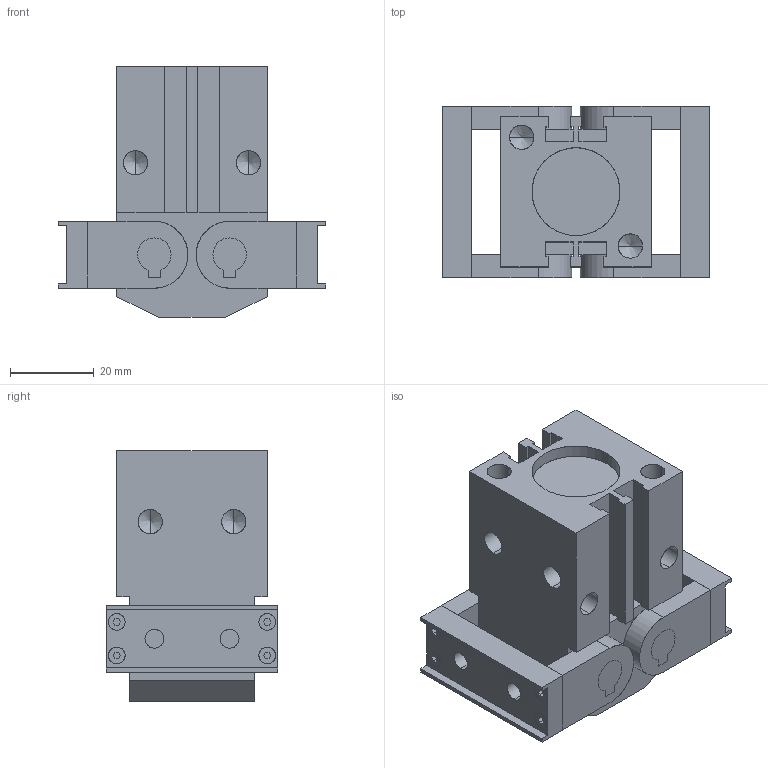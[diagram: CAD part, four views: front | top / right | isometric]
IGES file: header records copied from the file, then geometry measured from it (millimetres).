
Start section: SolidWorks IGES file using analytic representation for surfaces
Global section: file name: C:\Documents and Settings\1EDPI\Mes documents\Kevin 17.01.13\ghk\ghk20\GHK 20 open.IGS; native system: SolidWorks 2010; preprocessor: SolidWorks 2010; author: 1EDPI; date: 130304.104653; units: millimetre
Bounding box: 64 x 41 x 60 mm (x, y, z)
Surface area: 25695 mm2 (no closed solid volume)
Topology: 0 solids, 0 shells, 277 faces, 3284 edges, 3264 vertices
Faces by surface type: bspline 189, revolution 88
